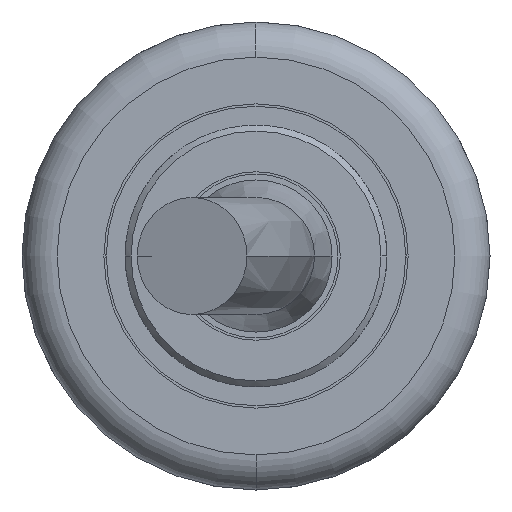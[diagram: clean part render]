
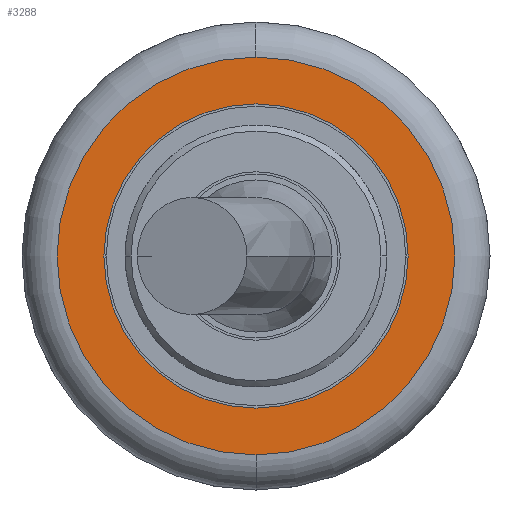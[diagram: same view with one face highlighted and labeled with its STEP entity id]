
A CAD part, left-side view. The second image highlights one B-rep face of the part: STEP entity #3288.
In plain terms, the highlighted planar face has unit normal (-1, 0, 0).
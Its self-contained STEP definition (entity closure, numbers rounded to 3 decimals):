
#631 = CARTESIAN_POINT ( 'NONE',  ( -64.98, 0., -17. ) ) ;
#744 = DIRECTION ( 'NONE',  ( 1., 0., 0. ) ) ;
#933 = EDGE_CURVE ( 'NONE', #5523, #7053, #5187, .T. ) ;
#1280 = ORIENTED_EDGE ( 'NONE', *, *, #5861, .F. ) ;
#1467 = DIRECTION ( 'NONE',  ( 0., 0., -1. ) ) ;
#2344 = CARTESIAN_POINT ( 'NONE',  ( -64.98, 0., 0. ) ) ;
#2893 = DIRECTION ( 'NONE',  ( 0., 0., -1. ) ) ;
#3112 = ORIENTED_EDGE ( 'NONE', *, *, #10010, .F. ) ;
#3288 = ADVANCED_FACE ( 'NONE', ( #8499, #6767 ), #5174, .F. ) ;
#4031 = VERTEX_POINT ( 'NONE', #5253 ) ;
#4303 = CIRCLE ( 'NONE', #5401, 17. ) ;
#5040 = CARTESIAN_POINT ( 'NONE',  ( -64.98, 0., 17. ) ) ;
#5174 = PLANE ( 'NONE',  #9644 ) ;
#5187 = CIRCLE ( 'NONE', #8995, 17. ) ;
#5253 = CARTESIAN_POINT ( 'NONE',  ( -64.98, 0., 13. ) ) ;
#5401 = AXIS2_PLACEMENT_3D ( 'NONE', #7095, #9214, #2893 ) ;
#5523 = VERTEX_POINT ( 'NONE', #631 ) ;
#5861 = EDGE_CURVE ( 'NONE', #7385, #4031, #7548, .T. ) ;
#6114 = CARTESIAN_POINT ( 'NONE',  ( -64.98, 0., 0. ) ) ;
#6126 = CIRCLE ( 'NONE', #9554, 13. ) ;
#6714 = EDGE_LOOP ( 'NONE', ( #3112, #1280 ) ) ;
#6767 = FACE_OUTER_BOUND ( 'NONE', #7538, .T. ) ;
#6887 = CARTESIAN_POINT ( 'NONE',  ( -64.98, 0., -13. ) ) ;
#7053 = VERTEX_POINT ( 'NONE', #5040 ) ;
#7095 = CARTESIAN_POINT ( 'NONE',  ( -64.98, 0., 0. ) ) ;
#7191 = AXIS2_PLACEMENT_3D ( 'NONE', #6114, #7747, #10401 ) ;
#7339 = DIRECTION ( 'NONE',  ( -1., 0., 0. ) ) ;
#7385 = VERTEX_POINT ( 'NONE', #6887 ) ;
#7538 = EDGE_LOOP ( 'NONE', ( #9331, #11185 ) ) ;
#7548 = CIRCLE ( 'NONE', #7191, 13. ) ;
#7747 = DIRECTION ( 'NONE',  ( -1., 0., 0. ) ) ;
#8145 = DIRECTION ( 'NONE',  ( 0., 0., 1. ) ) ;
#8499 = FACE_BOUND ( 'NONE', #6714, .T. ) ;
#8995 = AXIS2_PLACEMENT_3D ( 'NONE', #9333, #11201, #1467 ) ;
#9214 = DIRECTION ( 'NONE',  ( -1., 0., 0. ) ) ;
#9331 = ORIENTED_EDGE ( 'NONE', *, *, #933, .T. ) ;
#9333 = CARTESIAN_POINT ( 'NONE',  ( -64.98, 0., 0. ) ) ;
#9554 = AXIS2_PLACEMENT_3D ( 'NONE', #9945, #7339, #8145 ) ;
#9644 = AXIS2_PLACEMENT_3D ( 'NONE', #2344, #744, #11108 ) ;
#9731 = EDGE_CURVE ( 'NONE', #7053, #5523, #4303, .T. ) ;
#9945 = CARTESIAN_POINT ( 'NONE',  ( -64.98, 0., 0. ) ) ;
#10010 = EDGE_CURVE ( 'NONE', #4031, #7385, #6126, .T. ) ;
#10401 = DIRECTION ( 'NONE',  ( 0., 0., 1. ) ) ;
#11108 = DIRECTION ( 'NONE',  ( 0., 0., -1. ) ) ;
#11185 = ORIENTED_EDGE ( 'NONE', *, *, #9731, .T. ) ;
#11201 = DIRECTION ( 'NONE',  ( -1., 0., 0. ) ) ;
